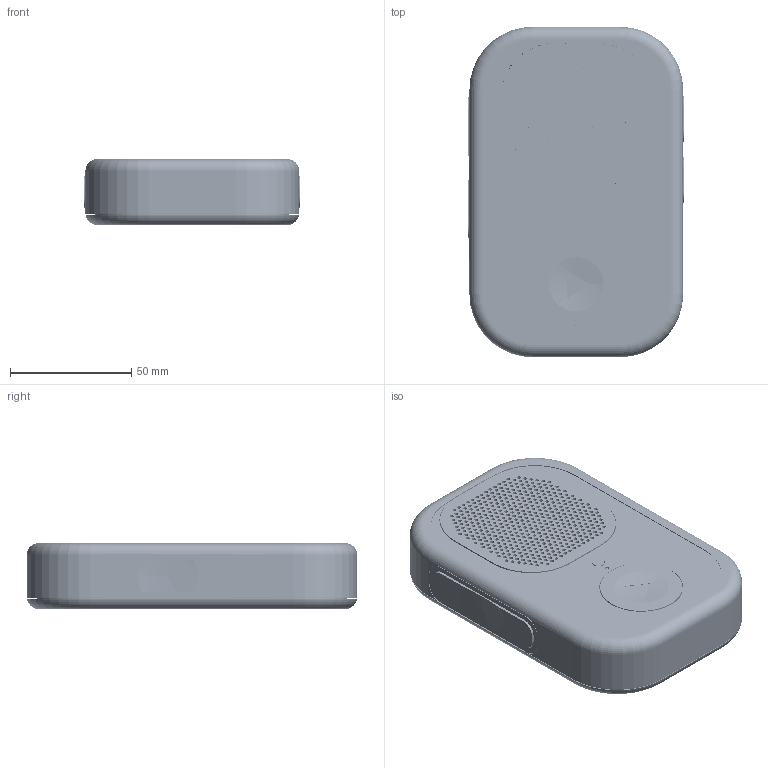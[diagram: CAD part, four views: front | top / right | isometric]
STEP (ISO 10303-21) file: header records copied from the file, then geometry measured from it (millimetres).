
FILE_DESCRIPTION(('Open CASCADE Model'),'2;1');
FILE_NAME('Open CASCADE Shape Model','2026-09-08T16:17:10',('Author'),( 'Open CASCADE'),'Open CASCADE STEP processor 7.7','Open CASCADE 7.7' ,'Unknown');
FILE_SCHEMA(('AUTOMOTIVE_DESIGN { 1 0 10303 214 1 1 1 1 }'));
Length unit declared in the file: millimetre
Products named in the file (114): Walkie_One_5_2_SWITCH_RETENTION_SR1; 32_play_stop_shim; 32_play_stop_shim_part; 10_volume_plus_key; 10_volume_plus_key_part; 31_play_seat_shim_1; 31_play_seat_shim_1_part; 01_front_structural_tub; 01_front_structural_tub_part; 11_volume_minus_bumper_collar; 11_volume_minus_bumper_collar_part; 13_circular_play_key; 13_circular_play_key_part; 19_lte_antenna_seat; 19_lte_antenna_seat_part; 21_ptt_grip_pad; 21_ptt_grip_pad_part; 18_microphone_acoustic_gasket; 18_microphone_acoustic_gasket_part; 04_rear_perimeter_bumper; 04_rear_perimeter_bumper_part; 30_optical_support_pad_2; 30_optical_support_pad_2_part; 21_volume_plus_grip_pad; 21_volume_plus_grip_pad_part; 11_volume_plus_bumper_collar; 11_volume_plus_bumper_collar_part; 28_acoustic_mesh; 28_acoustic_mesh_part; 30_optical_support_pad_1; 30_optical_support_pad_1_part; 08_speaker_front_gasket; 08_speaker_front_gasket_part; 05_perforated_rigid_speaker_panel; 05_perforated_rigid_speaker_panel_part; 17_microphone_cradle; 17_microphone_cradle_part; 03_front_perimeter_bumper; 03_front_perimeter_bumper_part; 11_ptt_bumper_collar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
Assembly tree (113 placements, depth 4):
  Walkie_One_5_2_SWITCH_RETENTION_SR1
    Walkie_One_5_2_SWITCH_RETENTION_SR1
      32_play_stop_shim
        32_play_stop_shim_part
      10_volume_plus_key
        10_volume_plus_key_part
      31_play_seat_shim_1
        31_play_seat_shim_1_part
      01_front_structural_tub
        01_front_structural_tub_part
      11_volume_minus_bumper_collar
        11_volume_minus_bumper_collar_part
      13_circular_play_key
        13_circular_play_key_part
      19_lte_antenna_seat
        19_lte_antenna_seat_part
      21_ptt_grip_pad
        21_ptt_grip_pad_part
      18_microphone_acoustic_gasket
        18_microphone_acoustic_gasket_part
      04_rear_perimeter_bumper
        04_rear_perimeter_bumper_part
      30_optical_support_pad_2
        30_optical_support_pad_2_part
      21_volume_plus_grip_pad
        21_volume_plus_grip_pad_part
      11_volume_plus_bumper_collar
        11_volume_plus_bumper_collar_part
      28_acoustic_mesh
        28_acoustic_mesh_part
      30_optical_support_pad_1
        30_optical_support_pad_1_part
      08_speaker_front_gasket
        08_speaker_front_gasket_part
      05_perforated_rigid_speaker_panel
        05_perforated_rigid_speaker_panel_part
      17_microphone_cradle
        17_microphone_cradle_part
      03_front_perimeter_bumper
        03_front_perimeter_bumper_part
      11_ptt_bumper_collar
        11_ptt_bumper_collar_part
      09_battery_tray
        09_battery_tray_part
      16_rgb_led_support_ring
        16_rgb_led_support_ring_part
      10_volume_minus_key
        10_volume_minus_key_part
      07_speaker_edge_cradle
        07_speaker_edge_cradle_part
      27_offset_status_light_guide
        27_offset_status_light_guide_part
      10_ptt_key
        10_ptt_key_part
      21_volume_minus_grip_pad
        21_volume_minus_grip_pad_part
      29_microphone_PSA
        29_microphone_PSA_part
      02_rear_structural_cover
        02_rear_structural_cover_part
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Bounding box: 89.16 x 136 x 27.2 mm (x, y, z)
Volume: 121678.2 mm3; surface area: 176422 mm2
Topology: 402 solids, 1769 shells, 25043 faces, 58994 edges, 36167 vertices
Faces by surface type: plane 20201, cylinder 3148, bspline 1534, torus 90, cone 38, sphere 32
Full cylindrical faces by diameter (mm): 0.3 x61, 0.375 x1, 0.5 x1, 0.6 x4, 0.75 x4, 0.813 x5, 0.9 x8, 1 x16, 1.5 x6, 1.6 x473, 1.7 x10, 1.8 x2, 1.96 x10, 2 x1, 2.2 x10, 2.8 x4, 3.5 x2, 3.7 x8, 5 x3, 5.2 x2, 5.3 x3, 5.4 x1, 6.2 x2, 7 x1, 34 x1, 34.6 x1, 36.4 x2, 39.6 x1
Entity records: 1485007 total; most frequent: CARTESIAN_POINT 357665, DIRECTION 202556, LINE 138956, VECTOR 138956, ORIENTED_EDGE 108877, PCURVE 108877, DEFINITIONAL_REPRESENTATION 108877, EDGE_CURVE 58949
